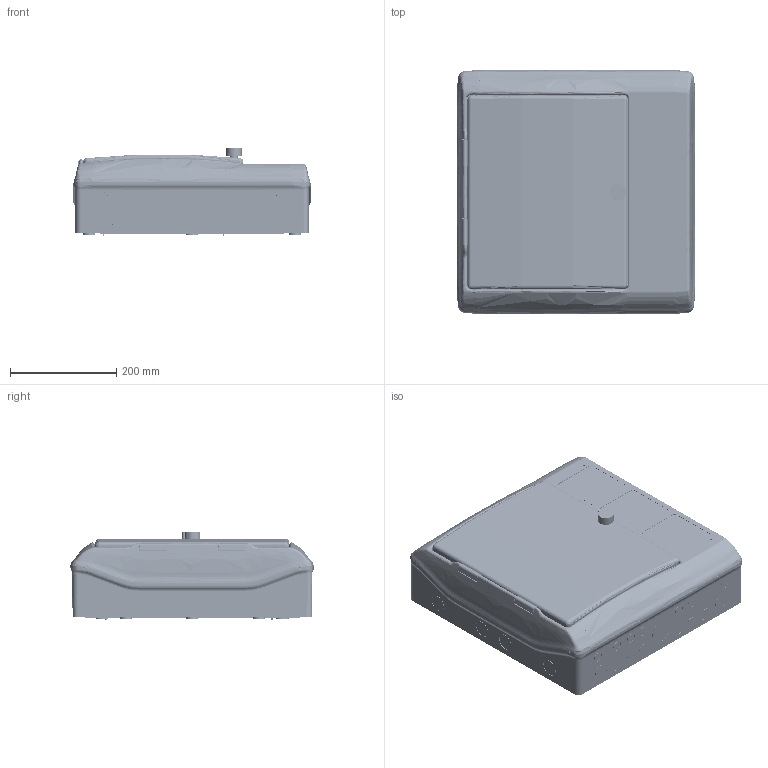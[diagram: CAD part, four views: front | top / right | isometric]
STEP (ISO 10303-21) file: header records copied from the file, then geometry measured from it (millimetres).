
FILE_DESCRIPTION((''),'2;1');
FILE_NAME('13439_3D-SIMPLIFIED_ASM','2023-03-15T11:35:03',('theo.robert.ext'),(''),'CREO PARAMETRIC BY PTC INC, 2018260','CREO PARAMETRIC BY PTC INC, 2018260','');
FILE_SCHEMA(('CONFIG_CONTROL_DESIGN'));
Length unit declared in the file: inch
Products named in the file (36): PRT0001; PRT0002; PRT0003; PRT0004; PRT0005; PRT0006; PRT0007; PRT0008; PRT0009; PRT0010; PRT0011; PRT0012; PRT0013; PRT0014; PRT0015; PRT0016; PRT0017; PRT0018; PRT0019; PRT0020; PRT0021; PRT0022; PRT0023; PRT0024; PRT0025; PRT0026; PRT0027; PRT0028; PRT0029; PRT0030; PRT0031; PRT0032; PRT0033; ASM0001_ASM; PRT0034; 13439_3D-SIMPLIFIED_ASM
Assembly tree (59 placements, depth 3):
  13439_3D-SIMPLIFIED_ASM
    PRT0001
    PRT0002
    PRT0003
    PRT0004
    PRT0005
    PRT0006
    PRT0007
    PRT0008
    PRT0009
    PRT0010
    PRT0011
    PRT0012
    PRT0013
    PRT0014
    PRT0015
    PRT0016
    PRT0017
    PRT0018
    PRT0019  x3
    PRT0020
    PRT0021
    PRT0022
    PRT0023
    PRT0024
    PRT0025
    PRT0026
    PRT0027  x2
    PRT0028
    ASM0001_ASM  x2
      PRT0029
      PRT0030
      PRT0031
      PRT0032
      PRT0033
    PRT0034
Bounding box: 448.06 x 458.99 x 166.85 mm (x, y, z)
Volume: 2329691.4 mm3; surface area: 2063031.7 mm2
Topology: 81 solids, 100 shells, 5953 faces, 15574 edges, 10218 vertices
Faces by surface type: plane 3037, cylinder 1846, bspline 719, cone 202, torus 110, extrusion 39
Entity records: 171348 total; most frequent: CARTESIAN_POINT 62613, ORIENTED_EDGE 23600, DIRECTION 20499, EDGE_CURVE 11823, VERTEX_POINT 7716, AXIS2_PLACEMENT_3D 7147, VECTOR 6205, LINE 6166
